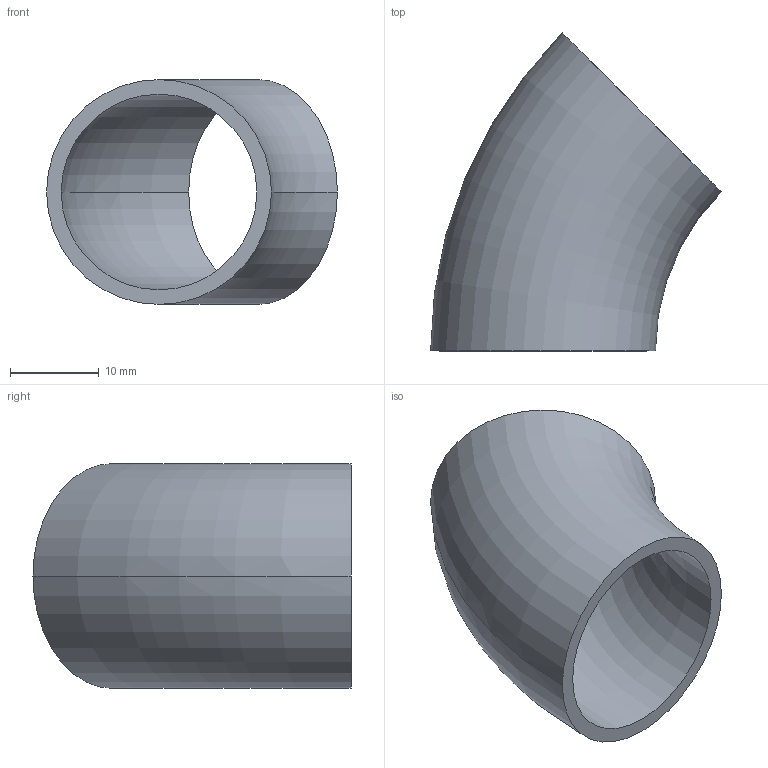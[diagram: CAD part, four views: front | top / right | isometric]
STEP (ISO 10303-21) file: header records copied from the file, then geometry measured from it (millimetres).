
FILE_DESCRIPTION (( 'STEP AP203' ), '1' );
FILE_NAME ('E2WK1.0.STEP', '2018-04-30T18:12:52', ( 'vneprd' ), ( 'Microsoft' ), 'SwSTEP 2.0', 'SolidWorks 2014', '' );
FILE_SCHEMA (( 'CONFIG_CONTROL_DESIGN' ));
Length unit declared in the file: inch
Products named in the file (1): E2WK1.0
Bounding box: 32.84 x 35.92 x 25.4 mm (x, y, z)
Volume: 3686 mm3; surface area: 4711.6 mm2
Topology: 1 solids, 1 shells, 6 faces, 12 edges, 8 vertices
Faces by surface type: torus 4, plane 2
Entity records: 251 total; most frequent: DIRECTION 38, CARTESIAN_POINT 27, ORIENTED_EDGE 24, AXIS2_PLACEMENT_3D 19, CIRCLE 12, EDGE_CURVE 12, EDGE_LOOP 8, PERSON_AND_ORGANIZATION 8
